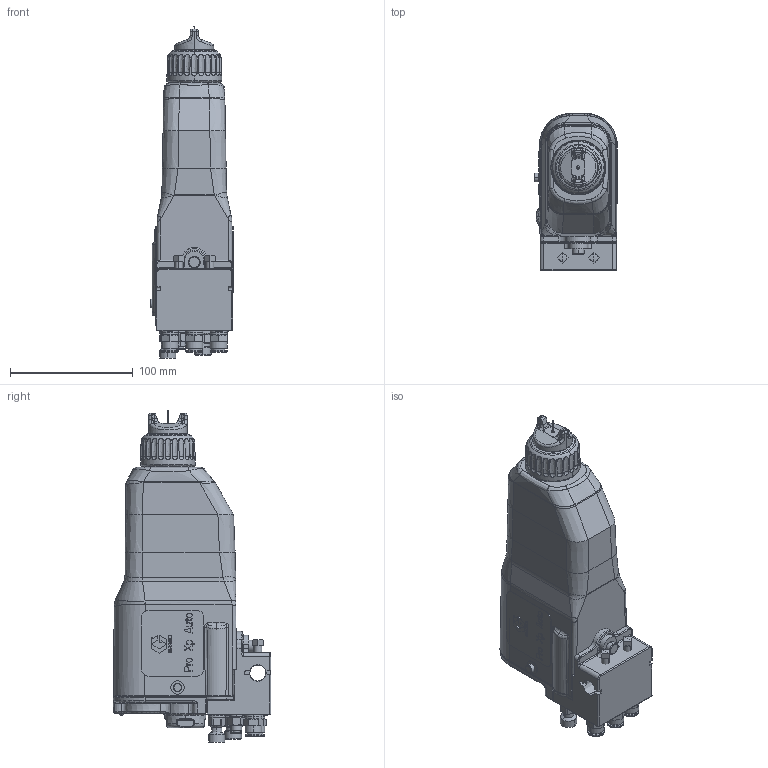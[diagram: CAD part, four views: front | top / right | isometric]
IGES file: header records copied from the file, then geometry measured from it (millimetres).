
Start section:  PTC IGES file: la1t10-en-k.igs
Global section: file name: la1t10-en-k.igs; native system: Creo Parametric by PTC Inc.; preprocessor: 2019030; author: qusrh3; organization: Unknown; date: 20200518.163739; units: inch
Bounding box: 67.94 x 127.91 x 270.08 mm (x, y, z)
Surface area: 104153.2 mm2 (no closed solid volume)
Topology: 0 solids, 0 shells, 1202 faces, 6041 edges, 6033 vertices
Faces by surface type: bspline 794, revolution 362, extrusion 46
